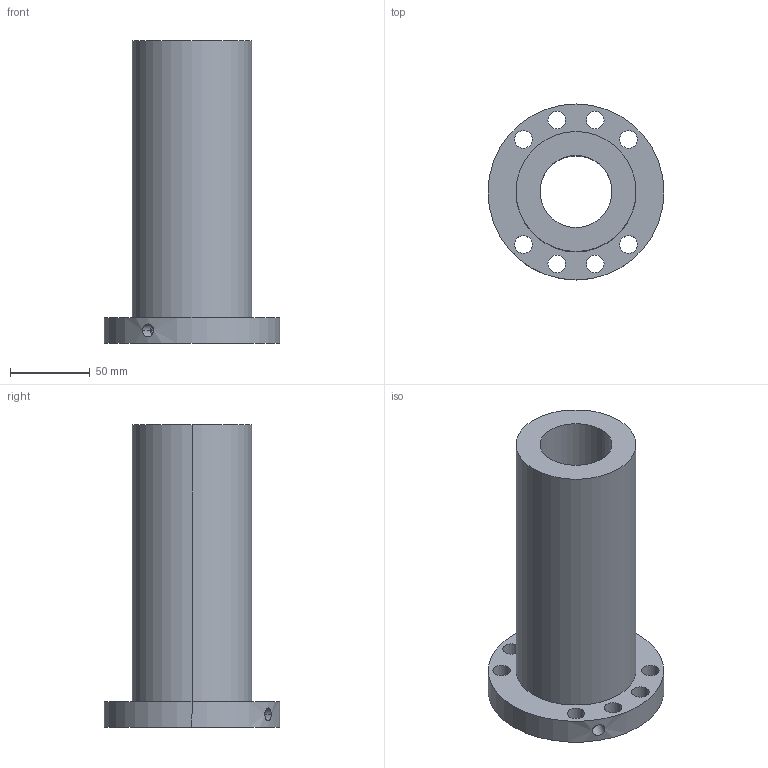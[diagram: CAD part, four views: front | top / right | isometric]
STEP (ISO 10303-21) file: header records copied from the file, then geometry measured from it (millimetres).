
FILE_DESCRIPTION((''),'2;1');
FILE_NAME('45-16K5_635','2008-04-10T',('yanyu'),(''),'PRO/ENGINEER BY PARAMETRIC TECHNOLOGY CORPORATION, 2005070','PRO/ENGINEER BY PARAMETRIC TECHNOLOGY CORPORATION, 2005070','');
FILE_SCHEMA(('CONFIG_CONTROL_DESIGN'));
Length unit declared in the file: millimetre
Products named in the file (1): 45-16K5_635
Bounding box: 110 x 110 x 189 mm (x, y, z)
Volume: 602449.5 mm3; surface area: 92358.1 mm2
Topology: 1 solids, 1 shells, 30 faces, 78 edges, 52 vertices
Faces by surface type: cylinder 26, plane 4
Entity records: 1070 total; most frequent: CARTESIAN_POINT 210, DIRECTION 182, ORIENTED_EDGE 156, AXIS2_PLACEMENT_3D 78, EDGE_CURVE 78, VERTEX_POINT 52, EDGE_LOOP 52, CIRCLE 48
